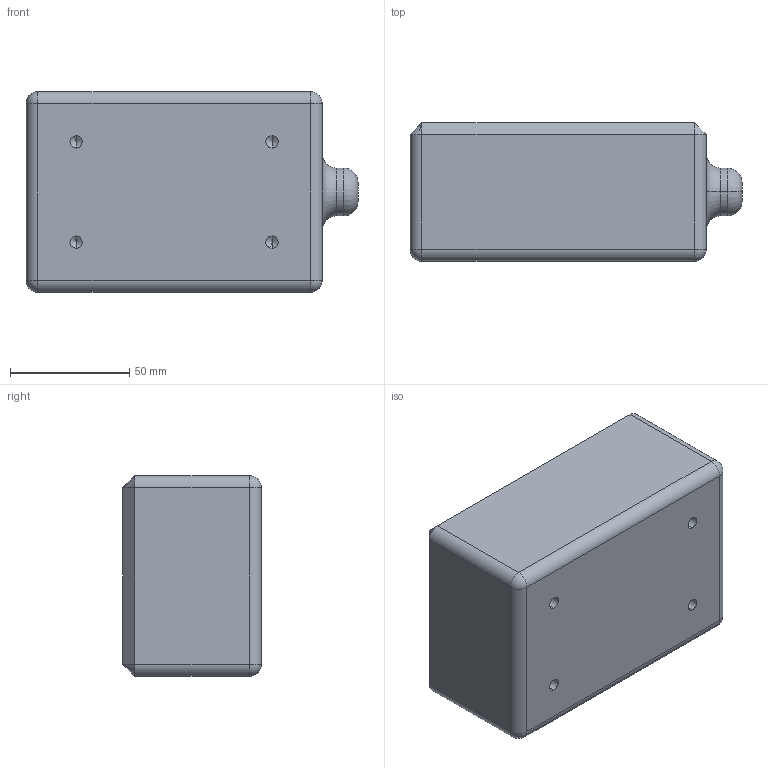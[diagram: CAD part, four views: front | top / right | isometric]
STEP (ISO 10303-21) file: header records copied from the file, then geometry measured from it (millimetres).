
FILE_DESCRIPTION (( 'STEP AP214' ), '1' );
FILE_NAME ('信号盒ASC-8A-B.STEP', '2020-01-03T01:16:54', ( '微软用户' ), ( '微软中国' ), 'SwSTEP 2.0', 'SolidWorks 2016', '' );
FILE_SCHEMA (( 'AUTOMOTIVE_DESIGN' ));
Length unit declared in the file: millimetre
Products named in the file (1): 陓瘍碟ASC-8A-B
Bounding box: 139 x 58 x 84 mm (x, y, z)
Volume: 600061.9 mm3; surface area: 43333 mm2
Topology: 1 solids, 1 shells, 49 faces, 110 edges, 52 vertices
Faces by surface type: cylinder 18, cone 12, plane 11, torus 4, sphere 4
Entity records: 1250 total; most frequent: DIRECTION 238, CARTESIAN_POINT 196, ORIENTED_EDGE 188, AXIS2_PLACEMENT_3D 94, EDGE_CURVE 94, EDGE_LOOP 54, VERTEX_POINT 52, VECTOR 50
